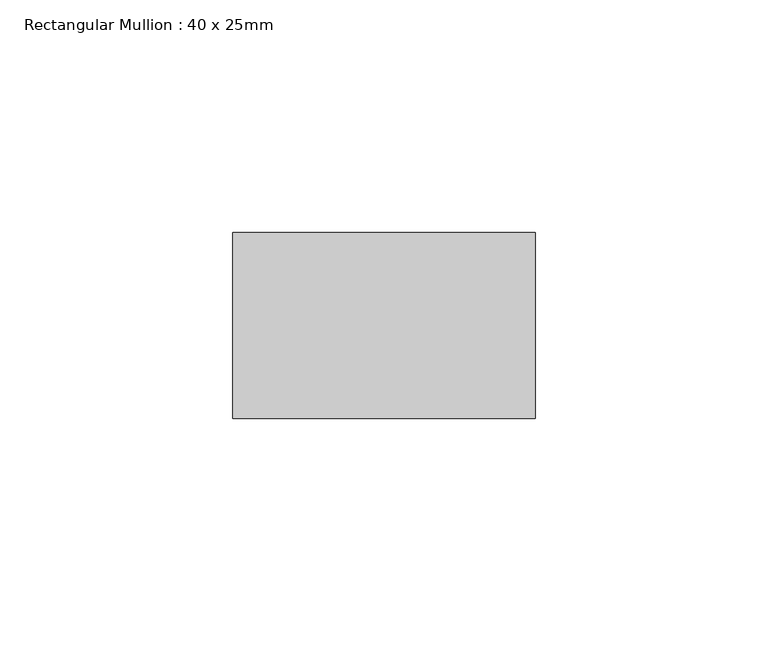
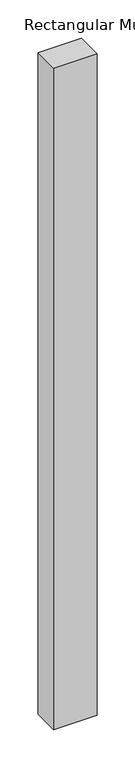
"""IFC4 building model written with IfcOpenShell, lengths in millimetres: member geometry, Rectangular Mullion : 40 x 25mm."""

import ifcopenshell
import ifcopenshell.guid

model = None  # the IFC model being written
_history = None  # IfcOwnerHistory: only IFC2X3 demands one
_inside = {}  # id of a spatial element -> (the spatial element, [elements in it])
_under = {}  # id of a project, library or spatial element -> (it, [spatial elements below it])
_declared = {}  # id of a project -> (the project, [libraries it declares])
_typed = {}  # id of a type object -> (the type object, [elements of that type])
_made_of = {}  # id of a material, layer set ... -> (it, [elements and type objects made of it])


def new_model(schema):
    """Start an empty IFC model of exactly this schema.

    Asked for "IFC4X3", IfcOpenShell would pick the latest addendum, in which some entities
    have other attributes; the version numbers below select the first issue.
    IFC2X3 requires an IfcOwnerHistory on every rooted entity: one is made here for all.
    """
    global model, _history
    if schema == "IFC4X3":
        model = ifcopenshell.file(schema_version=(4, 3, 0, 0))
    else:
        model = ifcopenshell.file(schema=schema)
    _inside.clear()
    _under.clear()
    _declared.clear()
    _typed.clear()
    _made_of.clear()
    _history = None
    if model.schema == "IFC2X3":
        org = make("IfcOrganization", Name="unknown")
        user = make(
            "IfcPersonAndOrganization",
            ThePerson=make("IfcPerson", FamilyName="unknown"),
            TheOrganization=org,
        )
        app = make(
            "IfcApplication",
            ApplicationDeveloper=org,
            Version="unknown",
            ApplicationFullName="unknown",
            ApplicationIdentifier="unknown",
        )
        _history = make(
            "IfcOwnerHistory",
            OwningUser=user,
            OwningApplication=app,
            ChangeAction="ADDED",
            CreationDate=0,
        )
    return model


def make(cls, **values):
    """One entity of the class cls with the attributes given. An attribute that is None is left unset."""
    return model.create_entity(
        cls, **{name: value for name, value in values.items() if value is not None}
    )


def rooted(cls, **values):
    """An entity with a GlobalId (a new one), such as an element, a storey or a relation."""
    return make(cls, GlobalId=ifcopenshell.guid.new(), OwnerHistory=_history, **values)


def si_unit(unit_type, name, prefix=None):
    """IfcSIUnit, for example si_unit("LENGTHUNIT", "METRE", prefix="MILLI")."""
    return make("IfcSIUnit", UnitType=unit_type, Prefix=prefix, Name=name)


def assignment(units):
    """IfcUnitAssignment: the units of a project."""
    return None if units is None else make("IfcUnitAssignment", Units=units)


def point(xyz):
    """IfcCartesianPoint."""
    return None if xyz is None else make("IfcCartesianPoint", Coordinates=xyz)


def direction(xyz):
    """IfcDirection."""
    return None if xyz is None else make("IfcDirection", DirectionRatios=xyz)


def frame(location, z_axis=None, x_axis=None):
    """IfcAxis2Placement3D, a coordinate frame: its origin and axes. An axis left out is left unset."""
    return make(
        "IfcAxis2Placement3D",
        Location=point(location),
        Axis=direction(z_axis),
        RefDirection=direction(x_axis),
    )


def origin():
    """The frame at (0, 0, 0) with its axes left unset."""
    return frame((0.0, 0.0, 0.0))


def place(relative_to, where):
    """IfcLocalPlacement: puts the frame where relative to a parent placement (None: the world)."""
    return make(
        "IfcLocalPlacement", PlacementRelTo=relative_to, RelativePlacement=where
    )


def context(
    kind, dimensions, precision=None, world=None, true_north=None, identifier=None
):
    """IfcGeometricRepresentationContext, for example the 3D "Model" context."""
    return make(
        "IfcGeometricRepresentationContext",
        ContextIdentifier=identifier,
        ContextType=kind,
        CoordinateSpaceDimension=dimensions,
        Precision=precision,
        WorldCoordinateSystem=world,
        TrueNorth=true_north,
    )


def project(units=None, contexts=None):
    """IfcProject with its units and contexts."""
    return rooted(
        "IfcProject",
        Name="project",
        RepresentationContexts=contexts,
        UnitsInContext=assignment(units),
    )


def spatial(cls, under=None, at=None, **own):
    """A site, building, storey or space (cls), placed at a placement, below another one or the project."""
    s = rooted(cls, ObjectPlacement=at, **own)
    if under is not None:
        _under.setdefault(under.id(), (under, []))[1].append(s)
    return s


def polyline(points):
    """IfcPolyline through the points."""
    return make("IfcPolyline", Points=[point(p) for p in points])


def outline(outer, holes=None, kind="AREA"):
    """IfcArbitraryClosedProfileDef: a profile drawn as a closed curve; with holes, ...WithVoids."""
    if holes is None:
        return make("IfcArbitraryClosedProfileDef", ProfileType=kind, OuterCurve=outer)
    return make(
        "IfcArbitraryProfileDefWithVoids",
        ProfileType=kind,
        OuterCurve=outer,
        InnerCurves=holes,
    )


def extrude(swept, where, along, depth):
    """IfcExtrudedAreaSolid: the profile swept, set in the frame where, extruded along a direction by depth."""
    return make(
        "IfcExtrudedAreaSolid",
        SweptArea=swept,
        Position=where,
        ExtrudedDirection=direction(along),
        Depth=depth,
    )


def shape(context_of_items, identifier, shape_type, items):
    """IfcShapeRepresentation: the items that make up one representation, for example the "Body"."""
    return make(
        "IfcShapeRepresentation",
        ContextOfItems=context_of_items,
        RepresentationIdentifier=identifier,
        RepresentationType=shape_type,
        Items=items,
    )


def source(mapping_origin, context_of_items, identifier, shape_type, items):
    """IfcRepresentationMap: a shape defined once, which mapped items show again and again."""
    return make(
        "IfcRepresentationMap",
        MappingOrigin=mapping_origin,
        MappedRepresentation=shape(context_of_items, identifier, shape_type, items),
    )


def transform(
    local_origin,
    x_axis=None,
    y_axis=None,
    z_axis=None,
    scale=None,
    scale2=None,
    scale3=None,
    uniform=True,
):
    """IfcCartesianTransformationOperator3D, or its non-uniform kind. x_axis, y_axis, z_axis: its Axis1, 2, 3."""
    if uniform:
        return make(
            "IfcCartesianTransformationOperator3D",
            Axis1=direction(x_axis),
            Axis2=direction(y_axis),
            LocalOrigin=point(local_origin),
            Scale=scale,
            Axis3=direction(z_axis),
        )
    return make(
        "IfcCartesianTransformationOperator3DnonUniform",
        Axis1=direction(x_axis),
        Axis2=direction(y_axis),
        LocalOrigin=point(local_origin),
        Scale=scale,
        Axis3=direction(z_axis),
        Scale2=scale2,
        Scale3=scale3,
    )


def mapped(mapping_source, mapping_target):
    """IfcMappedItem: shows the shape of a source again, moved by a transform."""
    return make(
        "IfcMappedItem", MappingSource=mapping_source, MappingTarget=mapping_target
    )


def made_of(thing, what):
    """Note that an element or type object is made of a material, layer set ...; save() writes the relation."""
    if what is not None:
        _made_of.setdefault(what.id(), (what, []))[1].append(thing)
    return thing


def element(
    cls,
    number,
    at=None,
    inside=None,
    cuts=None,
    type_object=None,
    material=None,
    context=None,
    identifier="Body",
    shape_type=None,
    held_by="IfcProductDefinitionShape",
    body=None,
    shapes=None,
    **own,
):
    """One element of the class cls, such as IfcWall. Its Tag is "e" and its number.

    at: its placement. inside: the storey or other place that contains it. cuts: it is an
    opening in that element (IfcRelVoidsElement). A single representation is given by context,
    identifier, shape_type and body (its items); several are given by shapes. held_by: the class
    of the entity that holds the representations. save() writes the other relations.
    """
    e = rooted(cls, Tag="e%d" % number, ObjectPlacement=at, **own)
    if body is not None:
        shapes = [shape(context, identifier, shape_type, body)]
    if shapes is not None:
        e.Representation = make(held_by, Representations=shapes)
    if inside is not None:
        _inside.setdefault(inside.id(), (inside, []))[1].append(e)
    if cuts is not None:
        rooted(
            "IfcRelVoidsElement", RelatingBuildingElement=cuts, RelatedOpeningElement=e
        )
    if type_object is not None:
        _typed.setdefault(type_object.id(), (type_object, []))[1].append(e)
    return made_of(e, material)


def aggregate(whole, parts):
    """IfcRelAggregates: a whole, such as a stair, and the parts it consists of."""
    return rooted("IfcRelAggregates", RelatingObject=whole, RelatedObjects=parts)


def save(model, path):
    """Write the relations noted so far, then the file.

    IfcRelAggregates (storeys below a building ...), IfcRelContainedInSpatialStructure (elements
    in a storey), IfcRelDefinesByType, IfcRelAssociatesMaterial and IfcRelDeclares: one each for
    every whole, place, type object, material and project.
    """
    for whole, parts in _under.values():
        aggregate(whole, parts)
    for where, things in _inside.values():
        rooted(
            "IfcRelContainedInSpatialStructure",
            RelatedElements=things,
            RelatingStructure=where,
        )
    for kind, things in _typed.values():
        rooted("IfcRelDefinesByType", RelatedObjects=things, RelatingType=kind)
    for what, things in _made_of.values():
        rooted("IfcRelAssociatesMaterial", RelatedObjects=things, RelatingMaterial=what)
    for by, libraries in _declared.values():
        rooted("IfcRelDeclares", RelatingContext=by, RelatedDefinitions=libraries)
    model.write(path)


def rectangular_mullion_40_x_25mm_9c1cec56(model_context):
    return source(origin(), model_context, "Body", "SweptSolid", [
        extrude(outline(polyline([(40.0, -20.0), (40.0, -60.0), (-25.0, -60.0), (-25.0, -20.0), (40.0, -20.0)])), frame((0.0, 0.0, -1051.1503511), z_axis=(0.0, 0.0, 1.0), x_axis=(1.0, 0.0, 0.0)), (0.0, 0.0, 1.0), 1051.1503511),
    ])


if __name__ == "__main__":
    model = new_model("IFC4")
    model_context = context("Model", 3, world=origin())
    ifc_project = project(units=[si_unit("LENGTHUNIT", "METRE", prefix="MILLI")], contexts=[model_context])
    site = spatial("IfcSite", under=ifc_project)
    building = spatial("IfcBuilding", under=site)
    placement = place(None, origin())
    rectangular_mullion_40_x_25mm_shape = rectangular_mullion_40_x_25mm_9c1cec56(model_context)
    element("IfcMember", 1, ObjectType="Rectangular Mullion : 40 x 25mm", at=placement, inside=building, context=model_context, shape_type="MappedRepresentation", body=[
        mapped(rectangular_mullion_40_x_25mm_shape, transform((0.0, 0.0, 0.0), x_axis=(1.0, 0.0, 0.0), y_axis=(0.0, 1.0, 0.0), z_axis=(0.0, 0.0, 1.0))),
    ])
    save(model, "model.ifc")
